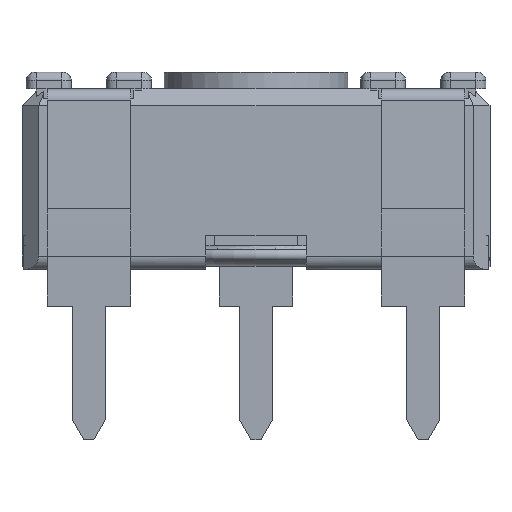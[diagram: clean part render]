
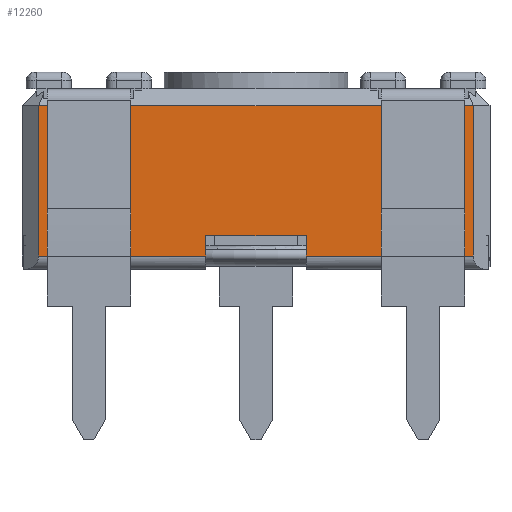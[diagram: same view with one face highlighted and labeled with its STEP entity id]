
A CAD part, front view. The second image highlights one B-rep face of the part: STEP entity #12260.
In plain terms, the highlighted planar face has unit normal (0, -1, 0).
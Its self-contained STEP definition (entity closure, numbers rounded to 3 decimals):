
#1198=FACE_OUTER_BOUND('',#1813,.T.);
#1813=EDGE_LOOP('',(#10318,#10319,#10320,#10321,#10322,#10323,#10324,#10325));
#2730=LINE('',#19169,#4009);
#2738=LINE('',#19186,#4017);
#2755=LINE('',#19229,#4034);
#2756=LINE('',#19234,#4035);
#3032=LINE('',#20023,#4311);
#3044=LINE('',#20045,#4323);
#3067=LINE('',#20098,#4346);
#3072=LINE('',#20107,#4351);
#4009=VECTOR('',#15467,10.);
#4017=VECTOR('',#15479,10.);
#4034=VECTOR('',#15516,10.);
#4035=VECTOR('',#15523,10.);
#4311=VECTOR('',#16249,10.);
#4323=VECTOR('',#16271,10.);
#4346=VECTOR('',#16318,10.);
#4351=VECTOR('',#16327,10.);
#5214=VERTEX_POINT('',#19166);
#5215=VERTEX_POINT('',#19168);
#5222=VERTEX_POINT('',#19184);
#5237=VERTEX_POINT('',#19226);
#5238=VERTEX_POINT('',#19228);
#5239=VERTEX_POINT('',#19232);
#5495=VERTEX_POINT('',#20022);
#5508=VERTEX_POINT('',#20096);
#6710=EDGE_CURVE('',#5214,#5215,#2730,.T.);
#6719=EDGE_CURVE('',#5214,#5222,#2738,.T.);
#6740=EDGE_CURVE('',#5237,#5238,#2755,.T.);
#6743=EDGE_CURVE('',#5238,#5239,#2756,.T.);
#7127=EDGE_CURVE('',#5495,#5215,#3032,.T.);
#7139=EDGE_CURVE('',#5237,#5495,#3044,.T.);
#7163=EDGE_CURVE('',#5508,#5222,#3067,.T.);
#7168=EDGE_CURVE('',#5239,#5508,#3072,.T.);
#10318=ORIENTED_EDGE('',*,*,#6710,.F.);
#10319=ORIENTED_EDGE('',*,*,#6719,.T.);
#10320=ORIENTED_EDGE('',*,*,#7163,.F.);
#10321=ORIENTED_EDGE('',*,*,#7168,.F.);
#10322=ORIENTED_EDGE('',*,*,#6743,.F.);
#10323=ORIENTED_EDGE('',*,*,#6740,.F.);
#10324=ORIENTED_EDGE('',*,*,#7139,.T.);
#10325=ORIENTED_EDGE('',*,*,#7127,.T.);
#11091=PLANE('',#13251);
#12260=ADVANCED_FACE('',(#1198),#11091,.T.);
#13251=AXIS2_PLACEMENT_3D('',#20106,#16325,#16326);
#15467=DIRECTION('',(-1.,0.,0.));
#15479=DIRECTION('',(0.,0.,1.));
#15516=DIRECTION('',(0.,0.,-1.));
#15523=DIRECTION('',(-1.,0.,0.));
#16249=DIRECTION('',(0.,0.,-1.));
#16271=DIRECTION('',(1.,0.,0.));
#16318=DIRECTION('',(1.,0.,0.));
#16325=DIRECTION('center_axis',(0.,-1.,0.));
#16326=DIRECTION('ref_axis',(1.,0.,0.));
#16327=DIRECTION('',(0.,0.,1.));
#19166=CARTESIAN_POINT('',(-3.655,0.3,-0.6));
#19168=CARTESIAN_POINT('',(-8.655,0.3,-0.6));
#19169=CARTESIAN_POINT('',(-11.325,0.3,-0.6));
#19184=CARTESIAN_POINT('',(-3.655,0.3,3.9));
#19186=CARTESIAN_POINT('',(-3.655,0.3,0.));
#19226=CARTESIAN_POINT('',(-11.655,0.3,0.));
#19228=CARTESIAN_POINT('',(-11.655,0.3,-0.6));
#19229=CARTESIAN_POINT('',(-11.655,0.3,-0.3));
#19232=CARTESIAN_POINT('',(-16.655,0.3,-0.6));
#19234=CARTESIAN_POINT('',(-15.484,0.3,-0.6));
#20022=CARTESIAN_POINT('',(-8.655,0.3,0.));
#20023=CARTESIAN_POINT('',(-8.655,0.3,0.));
#20045=CARTESIAN_POINT('',(-16.655,0.3,0.));
#20096=CARTESIAN_POINT('',(-16.655,0.3,3.9));
#20098=CARTESIAN_POINT('',(-13.405,0.3,3.9));
#20106=CARTESIAN_POINT('Origin',(-16.655,0.3,0.));
#20107=CARTESIAN_POINT('',(-16.655,0.3,0.));
